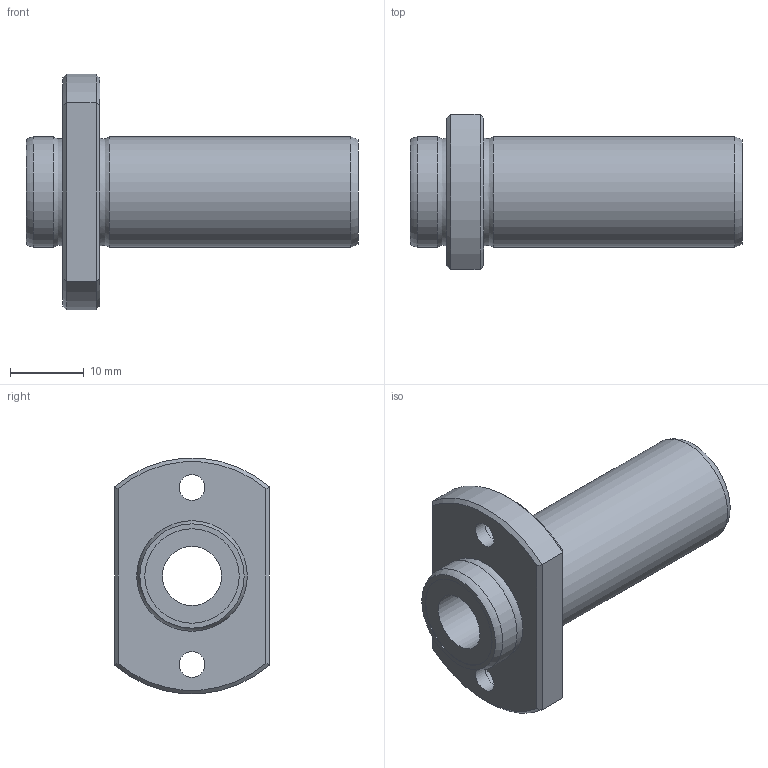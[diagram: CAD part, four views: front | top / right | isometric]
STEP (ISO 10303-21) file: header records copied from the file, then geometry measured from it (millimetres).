
FILE_DESCRIPTION((''),'2;1');
FILE_NAME('D:\製品 (図面)\カタログ用3D\リニアベアリング関連\STEP形式\LFDTB\LFDTB8.stp','2010-06-03T09:49:30',('Tsuchiya'),(''),'Autodesk Inventor 10','Autodesk Inventor 10','');
FILE_SCHEMA(('AUTOMOTIVE_DESIGN { 1 0 10303 214 1 1 1 1 }'));
Length unit declared in the file: millimetre
Products named in the file (1): LFDTB8
Bounding box: 45 x 21 x 31.9 mm (x, y, z)
Volume: 7607.9 mm3; surface area: 4683.9 mm2
Topology: 1 solids, 1 shells, 33 faces, 63 edges, 38 vertices
Faces by surface type: plane 12, bspline 8, cylinder 7, cone 4, torus 2
Full cylindrical faces by diameter (mm): 8 x1, 12.8 x2, 15 x2
Entity records: 977 total; most frequent: CARTESIAN_POINT 344, DIRECTION 124, ORIENTED_EDGE 100, EDGE_LOOP 58, AXIS2_PLACEMENT_3D 56, EDGE_CURVE 50, VERTEX_POINT 38, FACE_OUTER_BOUND 33
